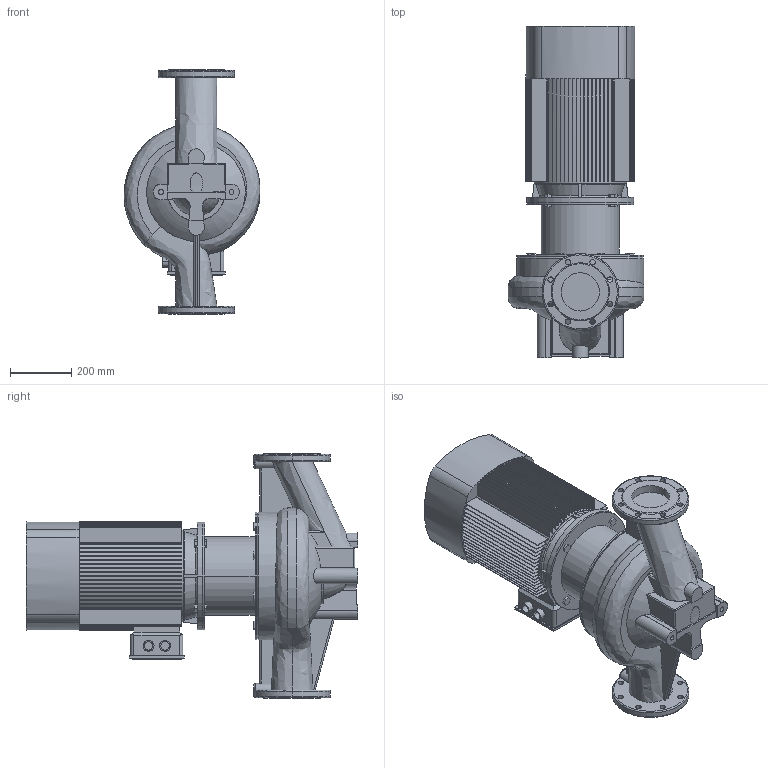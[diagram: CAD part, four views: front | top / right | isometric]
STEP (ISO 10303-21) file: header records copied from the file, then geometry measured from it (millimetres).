
FILE_DESCRIPTION (( 'STEP AP203' ), '1' );
FILE_NAME ('TD125-28G_4.STEP', '2022-05-02T19:18:16', ( '' ), ( '' ), 'SwSTEP 2.0', 'SolidWorks 2019', '' );
FILE_SCHEMA (( 'CONFIG_CONTROL_DESIGN' ));
Length unit declared in the file: millimetre
Products named in the file (4): ED_B5_YE2-180M-4 (18.5); Pr_ch 125_TD125-28G_4; Fon_125_TD125-28G_4; TD125-28G_4
Assembly tree (3 placements, depth 2):
  TD125-28G_4
    Pr_ch 125_TD125-28G_4
    Fon_125_TD125-28G_4
    ED_B5_YE2-180M-4 (18.5)
Bounding box: 444.14 x 1084 x 800 mm (x, y, z)
Volume: 92794861.5 mm3; surface area: 4093400.2 mm2
Topology: 5 solids, 7 shells, 728 faces, 1994 edges, 1318 vertices
Faces by surface type: plane 496, cylinder 158, torus 30, bspline 25, cone 17, sphere 2
Entity records: 31459 total; most frequent: CARTESIAN_POINT 12279, ORIENTED_EDGE 3984, DIRECTION 3892, EDGE_CURVE 1992, AXIS2_PLACEMENT_3D 1350, VERTEX_POINT 1318, LINE 1192, VECTOR 1192
